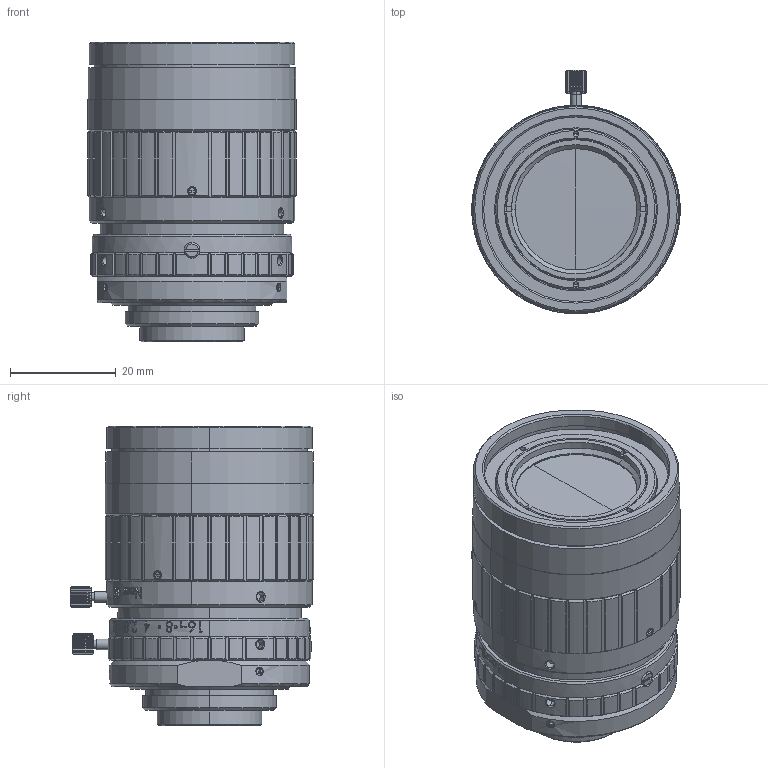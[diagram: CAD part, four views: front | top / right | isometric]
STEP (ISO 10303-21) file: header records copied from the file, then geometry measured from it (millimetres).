
FILE_DESCRIPTION (( 'STEP AP214' ), '1' );
FILE_NAME ('ML-U2516SR-18C.STEP', '2026-02-10T04:18:19', ( '' ), ( '' ), 'SwSTEP 2.0', 'SolidWorks 2025', '' );
FILE_SCHEMA (( 'AUTOMOTIVE_DESIGN' ));
Length unit declared in the file: millimetre
Products named in the file (1): ML-U2516SR-18C
Bounding box: 39.5 x 46.15 x 56.8 mm (x, y, z)
Volume: 56947.9 mm3; surface area: 13211.3 mm2
Topology: 1 solids, 1 shells, 1345 faces, 3599 edges, 2341 vertices
Faces by surface type: plane 523, cylinder 412, bspline 256, cone 150, sphere 4
Entity records: 64723 total; most frequent: CARTESIAN_POINT 34889, ORIENTED_EDGE 7190, DIRECTION 4667, EDGE_CURVE 3595, VERTEX_POINT 2341, B_SPLINE_CURVE_WITH_KNOTS 1824, AXIS2_PLACEMENT_3D 1806, EDGE_LOOP 1434
